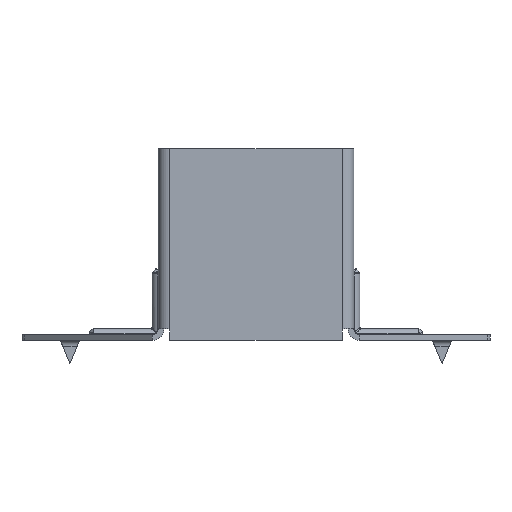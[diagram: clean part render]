
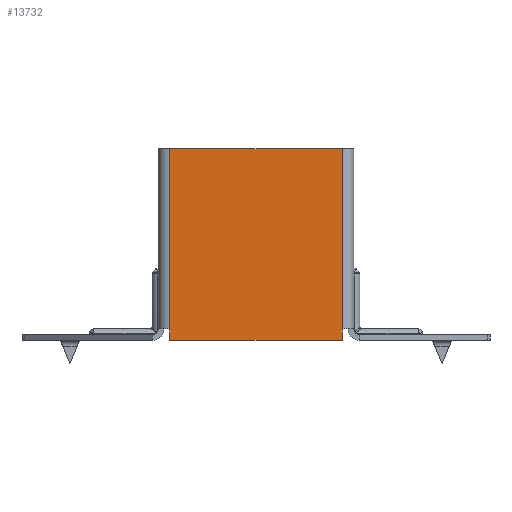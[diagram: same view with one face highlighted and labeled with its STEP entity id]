
A CAD part, front view. The second image highlights one B-rep face of the part: STEP entity #13732.
In plain terms, the highlighted planar face has unit normal (0, -1, 0).
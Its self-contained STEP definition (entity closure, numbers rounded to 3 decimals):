
#57 = CARTESIAN_POINT ( 'NONE',  ( -22.5, 0., 0. ) ) ;
#71 = VERTEX_POINT ( 'NONE', #14379 ) ;
#194 = DIRECTION ( 'NONE',  ( -1., 0., 0. ) ) ;
#239 = CARTESIAN_POINT ( 'NONE',  ( -22.5, 0., 0. ) ) ;
#1507 = CARTESIAN_POINT ( 'NONE',  ( 22.5, 0., -70. ) ) ;
#1986 = VERTEX_POINT ( 'NONE', #10324 ) ;
#2193 = LINE ( 'NONE', #22330, #15212 ) ;
#3194 = VERTEX_POINT ( 'NONE', #21662 ) ;
#3735 = EDGE_CURVE ( 'NONE', #3194, #1986, #19462, .T. ) ;
#3915 = VERTEX_POINT ( 'NONE', #6249 ) ;
#4496 = CARTESIAN_POINT ( 'NONE',  ( 22.5, 0., -70. ) ) ;
#4514 = DIRECTION ( 'NONE',  ( -1., 0., 0. ) ) ;
#5704 = VECTOR ( 'NONE', #4514, 1000. ) ;
#6064 = EDGE_CURVE ( 'NONE', #1986, #12580, #9146, .T. ) ;
#6249 = CARTESIAN_POINT ( 'NONE',  ( -22.5, 0., -70. ) ) ;
#7627 = EDGE_CURVE ( 'NONE', #71, #3194, #8353, .T. ) ;
#8211 = VERTEX_POINT ( 'NONE', #4496 ) ;
#8353 = LINE ( 'NONE', #1507, #22528 ) ;
#8630 = VECTOR ( 'NONE', #194, 1000. ) ;
#8730 = CARTESIAN_POINT ( 'NONE',  ( 0., 0., 0. ) ) ;
#9146 = LINE ( 'NONE', #57, #16104 ) ;
#9571 = FACE_OUTER_BOUND ( 'NONE', #22872, .T. ) ;
#9886 = ORIENTED_EDGE ( 'NONE', *, *, #15820, .F. ) ;
#10324 = CARTESIAN_POINT ( 'NONE',  ( -22.5, 0., -20. ) ) ;
#10383 = LINE ( 'NONE', #13181, #5704 ) ;
#10804 = CARTESIAN_POINT ( 'NONE',  ( 0., 0., -20. ) ) ;
#10849 = DIRECTION ( 'NONE',  ( 0., 0., -1. ) ) ;
#10868 = EDGE_CURVE ( 'NONE', #8211, #71, #2193, .T. ) ;
#11908 = PLANE ( 'NONE',  #12028 ) ;
#12028 = AXIS2_PLACEMENT_3D ( 'NONE', #8730, #13535, #15324 ) ;
#12480 = EDGE_CURVE ( 'NONE', #12580, #3915, #20474, .T. ) ;
#12580 = VERTEX_POINT ( 'NONE', #19862 ) ;
#12609 = DIRECTION ( 'NONE',  ( 0., 0., -1. ) ) ;
#13167 = ORIENTED_EDGE ( 'NONE', *, *, #7627, .T. ) ;
#13181 = CARTESIAN_POINT ( 'NONE',  ( -24., 0., -70. ) ) ;
#13535 = DIRECTION ( 'NONE',  ( 0., 1., 0. ) ) ;
#13563 = ORIENTED_EDGE ( 'NONE', *, *, #6064, .T. ) ;
#13688 = DIRECTION ( 'NONE',  ( 0., 0., 1. ) ) ;
#13732 = ADVANCED_FACE ( 'NONE', ( #9571 ), #11908, .F. ) ;
#13886 = DIRECTION ( 'NONE',  ( 0., 0., 1. ) ) ;
#14379 = CARTESIAN_POINT ( 'NONE',  ( 22.5, 0., -67. ) ) ;
#15212 = VECTOR ( 'NONE', #13688, 1000. ) ;
#15324 = DIRECTION ( 'NONE',  ( 0., 0., 1. ) ) ;
#15814 = ORIENTED_EDGE ( 'NONE', *, *, #10868, .T. ) ;
#15820 = EDGE_CURVE ( 'NONE', #8211, #3915, #10383, .T. ) ;
#16104 = VECTOR ( 'NONE', #12609, 1000. ) ;
#17613 = ORIENTED_EDGE ( 'NONE', *, *, #12480, .T. ) ;
#18331 = ORIENTED_EDGE ( 'NONE', *, *, #3735, .T. ) ;
#19462 = LINE ( 'NONE', #10804, #8630 ) ;
#19862 = CARTESIAN_POINT ( 'NONE',  ( -22.5, 0., -67. ) ) ;
#19913 = VECTOR ( 'NONE', #10849, 1000. ) ;
#20474 = LINE ( 'NONE', #239, #19913 ) ;
#21662 = CARTESIAN_POINT ( 'NONE',  ( 22.5, 0., -20. ) ) ;
#22330 = CARTESIAN_POINT ( 'NONE',  ( 22.5, 0., -70. ) ) ;
#22528 = VECTOR ( 'NONE', #13886, 1000. ) ;
#22872 = EDGE_LOOP ( 'NONE', ( #18331, #13563, #17613, #9886, #15814, #13167 ) ) ;
